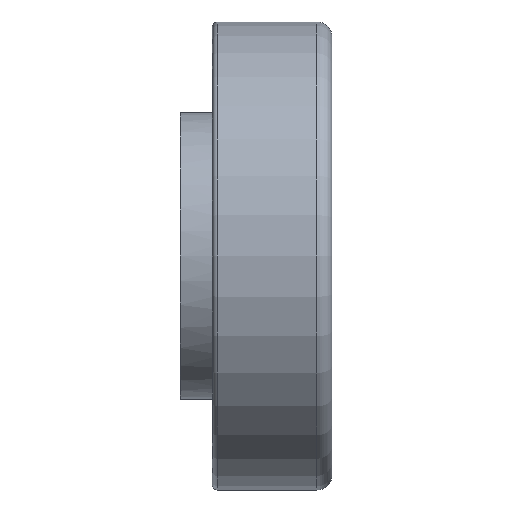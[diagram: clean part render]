
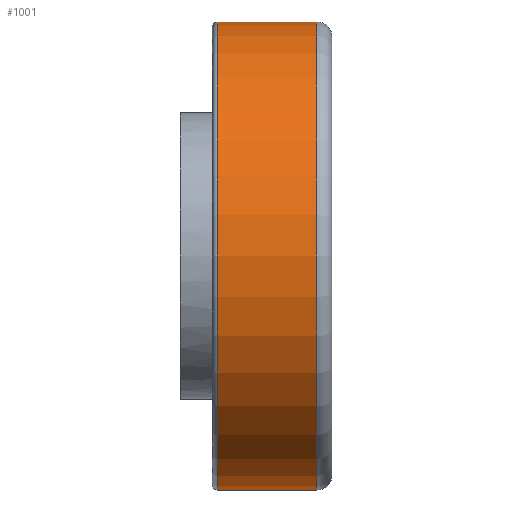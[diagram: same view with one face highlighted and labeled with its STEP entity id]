
A CAD part, front view. The second image highlights one B-rep face of the part: STEP entity #1001.
In plain terms, the highlighted cylindrical face has radius 23.5 mm (diameter 47 mm), a full revolution.
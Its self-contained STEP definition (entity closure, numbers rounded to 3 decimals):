
#28=CYLINDRICAL_SURFACE('',#1166,23.5);
#111=FACE_OUTER_BOUND('',#175,.T.);
#175=EDGE_LOOP('',(#889,#890,#891,#892,#893,#894));
#280=CIRCLE('',#1164,23.5);
#281=CIRCLE('',#1165,23.5);
#282=CIRCLE('',#1167,23.5);
#283=CIRCLE('',#1168,23.5);
#326=LINE('',#1934,#366);
#366=VECTOR('',#1491,23.5);
#442=VERTEX_POINT('',#1927);
#443=VERTEX_POINT('',#1929);
#444=VERTEX_POINT('',#1933);
#445=VERTEX_POINT('',#1935);
#592=EDGE_CURVE('',#442,#443,#280,.T.);
#593=EDGE_CURVE('',#443,#442,#281,.T.);
#594=EDGE_CURVE('',#443,#444,#326,.T.);
#595=EDGE_CURVE('',#445,#444,#282,.T.);
#596=EDGE_CURVE('',#444,#445,#283,.T.);
#889=ORIENTED_EDGE('',*,*,#593,.F.);
#890=ORIENTED_EDGE('',*,*,#594,.T.);
#891=ORIENTED_EDGE('',*,*,#595,.F.);
#892=ORIENTED_EDGE('',*,*,#596,.F.);
#893=ORIENTED_EDGE('',*,*,#594,.F.);
#894=ORIENTED_EDGE('',*,*,#592,.F.);
#1001=ADVANCED_FACE('',(#111),#28,.T.);
#1164=AXIS2_PLACEMENT_3D('',#1930,#1485,#1486);
#1165=AXIS2_PLACEMENT_3D('',#1931,#1487,#1488);
#1166=AXIS2_PLACEMENT_3D('',#1932,#1489,#1490);
#1167=AXIS2_PLACEMENT_3D('',#1936,#1492,#1493);
#1168=AXIS2_PLACEMENT_3D('',#1937,#1494,#1495);
#1485=DIRECTION('center_axis',(1.,0.,0.));
#1486=DIRECTION('ref_axis',(0.,-1.,0.));
#1487=DIRECTION('center_axis',(1.,0.,0.));
#1488=DIRECTION('ref_axis',(0.,-1.,0.));
#1489=DIRECTION('center_axis',(1.,0.,0.));
#1490=DIRECTION('ref_axis',(0.,1.,0.));
#1491=DIRECTION('',(-1.,0.,0.));
#1492=DIRECTION('center_axis',(-1.,0.,0.));
#1493=DIRECTION('ref_axis',(0.,-1.,0.));
#1494=DIRECTION('center_axis',(-1.,0.,0.));
#1495=DIRECTION('ref_axis',(0.,-1.,0.));
#1927=CARTESIAN_POINT('',(13.75,0.,23.5));
#1929=CARTESIAN_POINT('',(13.75,-23.5,0.));
#1930=CARTESIAN_POINT('Origin',(13.75,0.,0.));
#1931=CARTESIAN_POINT('Origin',(13.75,0.,0.));
#1932=CARTESIAN_POINT('Origin',(9.25,0.,0.));
#1933=CARTESIAN_POINT('',(3.75,-23.5,0.));
#1934=CARTESIAN_POINT('',(9.25,-23.5,0.));
#1935=CARTESIAN_POINT('',(3.75,0.,23.5));
#1936=CARTESIAN_POINT('Origin',(3.75,0.,0.));
#1937=CARTESIAN_POINT('Origin',(3.75,0.,0.));
